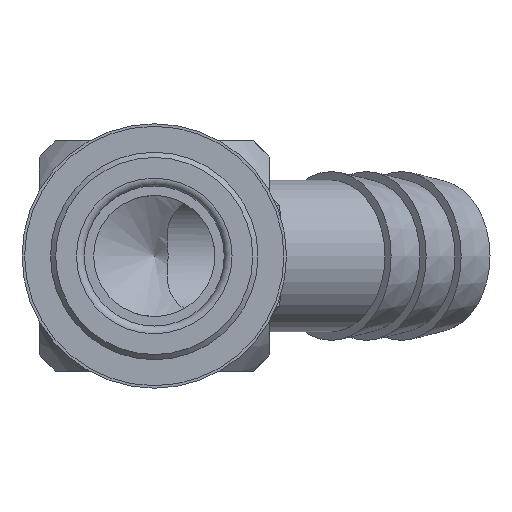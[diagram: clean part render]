
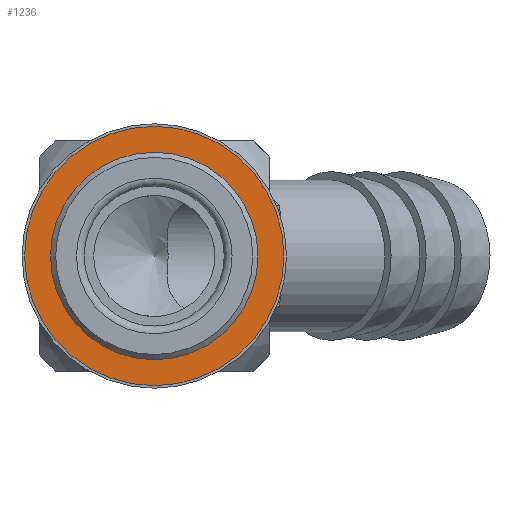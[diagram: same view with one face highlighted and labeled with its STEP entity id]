
A CAD part, left-side view. The second image highlights one B-rep face of the part: STEP entity #1236.
In plain terms, the highlighted planar face has unit normal (-1, 0, 0).
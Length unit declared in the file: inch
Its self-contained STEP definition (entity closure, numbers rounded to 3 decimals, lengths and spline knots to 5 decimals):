
#149=PLANE('',#1389);
#298=CIRCLE('',#1388,0.356);
#299=CIRCLE('',#1390,0.445);
#469=ORIENTED_EDGE('',*,*,#793,.F.);
#470=ORIENTED_EDGE('',*,*,#792,.T.);
#792=EDGE_CURVE('',#950,#950,#298,.T.);
#793=EDGE_CURVE('',#951,#951,#299,.T.);
#950=VERTEX_POINT('',#2159);
#951=VERTEX_POINT('',#2162);
#1014=EDGE_LOOP('',(#469));
#1015=EDGE_LOOP('',(#470));
#1124=FACE_BOUND('',#1014,.T.);
#1125=FACE_BOUND('',#1015,.T.);
#1236=ADVANCED_FACE('',(#1124,#1125),#149,.F.);
#1388=AXIS2_PLACEMENT_3D('',#2158,#1663,#1664);
#1389=AXIS2_PLACEMENT_3D('',#2160,#1665,#1666);
#1390=AXIS2_PLACEMENT_3D('',#2161,#1667,#1668);
#1663=DIRECTION('',(1.,0.,0.));
#1664=DIRECTION('',(0.,0.,-1.));
#1665=DIRECTION('',(1.,0.,0.));
#1666=DIRECTION('',(0.,0.,-1.));
#1667=DIRECTION('',(1.,0.,0.));
#1668=DIRECTION('',(0.,0.,-1.));
#2158=CARTESIAN_POINT('',(0.,0.,0.));
#2159=CARTESIAN_POINT('',(0.,0.,-0.356));
#2160=CARTESIAN_POINT('',(0.,0.356,0.));
#2161=CARTESIAN_POINT('',(0.,0.,0.));
#2162=CARTESIAN_POINT('',(0.,0.,-0.445));
